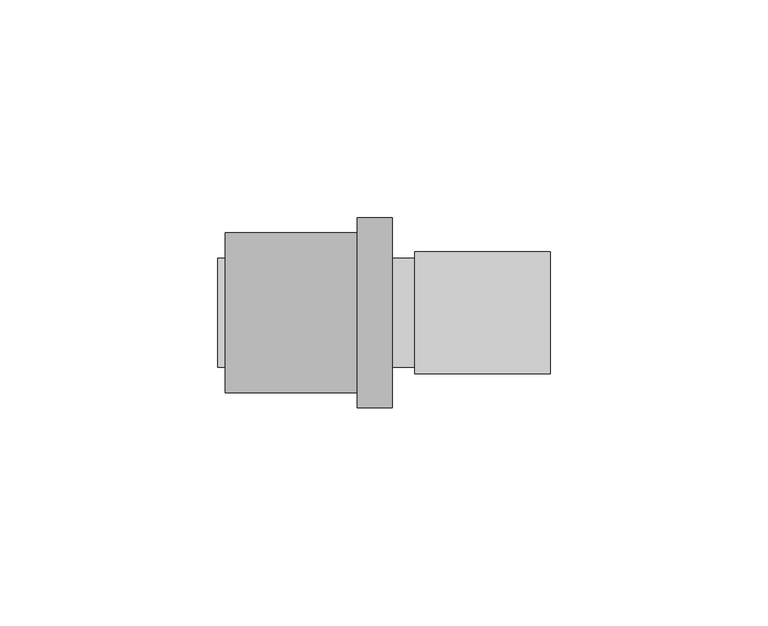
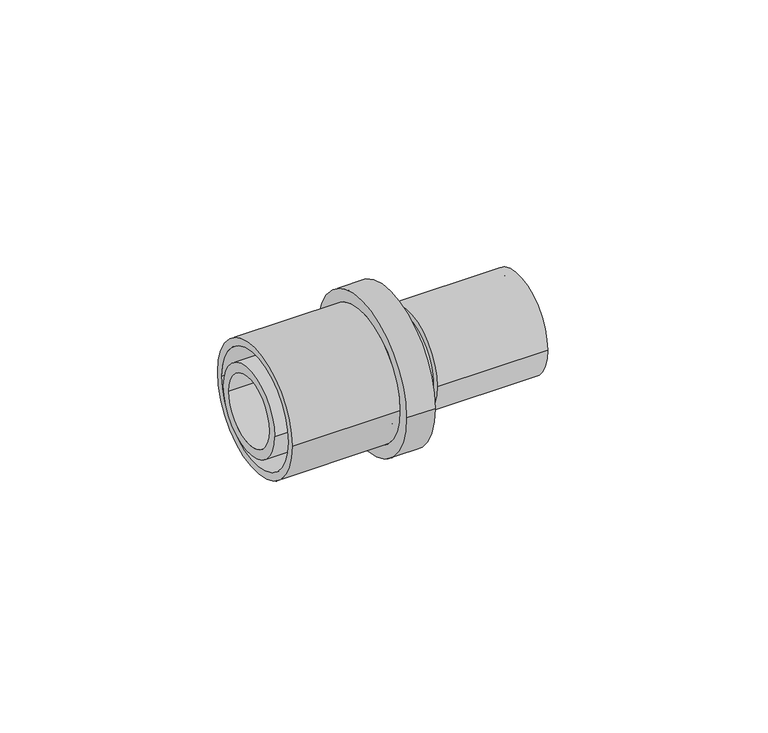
"""IFC4 building model written with IfcOpenShell, lengths in millimetres: pipe fitting geometry, FASTLOC Copper press adapter RX+ : FSL RX+ AT."""

from ifc_helpers import new_model, si_unit, point, frame, origin, origin_2d, place, context, project, spatial, polyline, circle_curve, trimmed, segment, composite_curve, outline, extrude, source, transform, mapped, element, save
from ifc_brep_helpers import plane_surface, cylinder_surface, revolved_surface, advanced_brep


def pipe_fitting_e188583c(model_context):
    return source(origin(), model_context, "Body", "SolidModel", [
        advanced_brep(
        [(-13.1, -21.8, 0.0), (-13.1, 21.8, 0.0), (-5.1, 21.8, 0.0), (-5.1, -21.8, 0.0), (-43.4, -18.35, 0.0), (-43.4, 18.35, 0.0), (-13.1, 18.35, 0.0), (-13.1, -18.35, 0.0), (-5.1, -16.2, 0.0), (-5.1, 16.2, 0.0), (-43.4, 16.2, 0.0), (-43.4, -16.2, 0.0)],
        [
            (0, 1, circle_curve(frame((-13.1, 0.0, 0.0), z_axis=(1.0, 0.0, 0.0), x_axis=(0.0, 1.0, 0.0)), 21.8)),
            (1, 2),
            (2, 3, circle_curve(frame((-5.1, 0.0, 0.0), z_axis=(-1.0, 0.0, 0.0), x_axis=(0.0, 1.0, 0.0)), 21.8)),
            (3, 0),
            (4, 5, circle_curve(frame((-43.4, 0.0, 0.0), z_axis=(1.0, 0.0, 0.0), x_axis=(0.0, 1.0, 0.0)), 18.35)),
            (5, 6),
            (6, 7, circle_curve(frame((-13.1, 0.0, 0.0), z_axis=(-1.0, 0.0, 0.0), x_axis=(0.0, 1.0, 0.0)), 18.35)),
            (7, 4),
            (8, 9, circle_curve(frame((-5.1, 0.0, 0.0), z_axis=(1.0, 0.0, 0.0), x_axis=(0.0, 1.0, 0.0)), 16.2)),
            (9, 10),
            (10, 11, circle_curve(frame((-43.4, 0.0, 0.0), z_axis=(-1.0, 0.0, 0.0), x_axis=(0.0, 1.0, 0.0)), 16.2)),
            (11, 8),
            (1, 0, circle_curve(frame((-13.1, 0.0, 0.0), z_axis=(1.0, 0.0, 0.0), x_axis=(0.0, -1.0, 0.0)), 21.8)),
            (3, 2, circle_curve(frame((-5.1, 0.0, 0.0), z_axis=(-1.0, 0.0, 0.0), x_axis=(0.0, -1.0, 0.0)), 21.8)),
            (6, 7, circle_curve(frame((-13.1, 0.0, 0.0), z_axis=(1.0, 0.0, 0.0), x_axis=(0.0, -1.0, 0.0)), 18.35)),
            (5, 4, circle_curve(frame((-43.4, 0.0, 0.0), z_axis=(1.0, 0.0, 0.0), x_axis=(0.0, -1.0, 0.0)), 18.35)),
            (10, 11, circle_curve(frame((-43.4, 0.0, 0.0), z_axis=(1.0, 0.0, 0.0), x_axis=(0.0, -1.0, 0.0)), 16.2)),
            (9, 8, circle_curve(frame((-5.1, 0.0, 0.0), z_axis=(1.0, 0.0, 0.0), x_axis=(0.0, -1.0, 0.0)), 16.2)),
        ],
        [
            cylinder_surface(frame((-5.1, 0.0, 0.0), z_axis=(-1.0, 0.0, 0.0), x_axis=(0.0, 1.0, 0.0)), 21.8),
            cylinder_surface(frame((-5.1, 0.0, 0.0), z_axis=(-1.0, 0.0, 0.0), x_axis=(0.0, 1.0, 0.0)), 18.35),
            revolved_surface(polyline([(-43.4, 16.2, 0.0), (-5.1, 16.2, 0.0)]), (-5.1, 0.0, 0.0), (-1.0, 0.0, 0.0)),
            cylinder_surface(frame((-5.1, 0.0, 0.0), z_axis=(-1.0, 0.0, 0.0), x_axis=(0.0, -1.0, 0.0)), 21.8),
            plane_surface(frame((-13.1, 0.0, 0.0), z_axis=(-1.0, 0.0, 0.0), x_axis=(0.0, -1.0, 0.0))),
            cylinder_surface(frame((-5.1, 0.0, 0.0), z_axis=(-1.0, 0.0, 0.0), x_axis=(0.0, -1.0, 0.0)), 18.35),
            plane_surface(frame((-43.4, 0.0, 0.0), z_axis=(-1.0, 0.0, 0.0), x_axis=(0.0, -1.0, 0.0))),
            revolved_surface(polyline([(-43.4, -16.2, 0.0), (-5.1, -16.2, 0.0)]), (-5.1, 0.0, 0.0), (-1.0, 0.0, 0.0)),
            plane_surface(frame((-5.1, 0.0, 0.0), z_axis=(1.0, 0.0, 0.0), x_axis=(0.0, -1.0, 0.0))),
        ],
        [
            (0, [[1, 2, 3, 4]]),
            (1, [[5, 6, 7, 8]]),
            (2, [[9, 10, 11, 12]]),
            (3, [[13, -4, 14, -2]]),
            (4, [[-13, -1], [15, -7]]),
            (5, [[16, -8, -15, -6]]),
            (6, [[-16, -5], [17, -11]]),
            (7, [[18, -12, -17, -10]]),
            (8, [[-14, -3], [-18, -9]]),
        ],
    ),
        extrude(outline(composite_curve([segment(trimmed(circle_curve(origin_2d(), 14.0), [point((-14.0, 0.0))], [point((14.0, 0.0))], False, "CARTESIAN"), True, "CONTINUOUS"), segment(trimmed(circle_curve(origin_2d(), 14.0), [point((14.0, 0.0))], [point((-14.0, 0.0))], False, "CARTESIAN"), True, "CONTINUOUS")], self_intersect=False), holes=[composite_curve([segment(trimmed(circle_curve(origin_2d(), 11.75), [point((-11.75, 0.0))], [point((11.75, 0.0))], True, "CARTESIAN"), True, "CONTINUOUS"), segment(trimmed(circle_curve(origin_2d(), 11.75), [point((11.75, 0.0))], [point((-11.75, 0.0))], True, "CARTESIAN"), True, "CONTINUOUS")], self_intersect=False)]), frame((0.0, 0.0, 0.0), z_axis=(1.0, 0.0, 0.0), x_axis=(0.0, 1.0, 0.0)), (0.0, 0.0, 1.0), 31.1),
        advanced_brep(
        [(-13.1, 12.5, 0.0), (-13.1, -12.5, 0.0), (-45.1, -12.5, 0.0), (-45.1, 12.5, 0.0), (-10.1, 14.1, 0.0), (-10.1, -14.1, 0.0), (-13.1, -14.1, 0.0), (-13.1, 14.1, 0.0), (0.0, 12.5, 0.0), (0.0, -12.5, 0.0), (-10.1, -12.5, 0.0), (-10.1, 12.5, 0.0), (-45.1, 9.85, 0.0), (-45.1, -9.85, 0.0), (0.0, -9.85, 0.0), (0.0, 9.85, 0.0)],
        [
            (0, 1, circle_curve(frame((-13.1, 0.0, 0.0), z_axis=(-1.0, 0.0, 0.0), x_axis=(0.0, -1.0, 0.0)), 12.5)),
            (1, 2),
            (2, 3, circle_curve(frame((-45.1, 0.0, 0.0), z_axis=(1.0, 0.0, 0.0), x_axis=(0.0, -1.0, 0.0)), 12.5)),
            (3, 0),
            (4, 5, circle_curve(frame((-10.1, 0.0, 0.0), z_axis=(-1.0, 0.0, 0.0), x_axis=(0.0, -1.0, 0.0)), 14.1)),
            (5, 6),
            (6, 7, circle_curve(frame((-13.1, 0.0, 0.0), z_axis=(1.0, 0.0, 0.0), x_axis=(0.0, -1.0, 0.0)), 14.1)),
            (7, 4),
            (8, 9, circle_curve(frame((0.0, 0.0, 0.0), z_axis=(-1.0, 0.0, 0.0), x_axis=(0.0, -1.0, 0.0)), 12.5)),
            (9, 10),
            (10, 11, circle_curve(frame((-10.1, 0.0, 0.0), z_axis=(1.0, 0.0, 0.0), x_axis=(0.0, -1.0, 0.0)), 12.5)),
            (11, 8),
            (12, 13, circle_curve(frame((-45.1, 0.0, 0.0), z_axis=(-1.0, 0.0, 0.0), x_axis=(0.0, -1.0, 0.0)), 9.85)),
            (13, 14),
            (14, 15, circle_curve(frame((0.0, 0.0, 0.0), z_axis=(1.0, 0.0, 0.0), x_axis=(0.0, -1.0, 0.0)), 9.85)),
            (15, 12),
            (2, 3, circle_curve(frame((-45.1, 0.0, 0.0), z_axis=(-1.0, 0.0, 0.0), x_axis=(0.0, 1.0, 0.0)), 12.5)),
            (12, 13, circle_curve(frame((-45.1, 0.0, 0.0), z_axis=(1.0, 0.0, 0.0), x_axis=(0.0, 1.0, 0.0)), 9.85)),
            (1, 0, circle_curve(frame((-13.1, 0.0, 0.0), z_axis=(-1.0, 0.0, 0.0), x_axis=(0.0, 1.0, 0.0)), 12.5)),
            (6, 7, circle_curve(frame((-13.1, 0.0, 0.0), z_axis=(-1.0, 0.0, 0.0), x_axis=(0.0, 1.0, 0.0)), 14.1)),
            (5, 4, circle_curve(frame((-10.1, 0.0, 0.0), z_axis=(-1.0, 0.0, 0.0), x_axis=(0.0, 1.0, 0.0)), 14.1)),
            (10, 11, circle_curve(frame((-10.1, 0.0, 0.0), z_axis=(-1.0, 0.0, 0.0), x_axis=(0.0, 1.0, 0.0)), 12.5)),
            (9, 8, circle_curve(frame((0.0, 0.0, 0.0), z_axis=(-1.0, 0.0, 0.0), x_axis=(0.0, 1.0, 0.0)), 12.5)),
            (14, 15, circle_curve(frame((0.0, 0.0, 0.0), z_axis=(-1.0, 0.0, 0.0), x_axis=(0.0, 1.0, 0.0)), 9.85)),
        ],
        [
            cylinder_surface(frame((0.0, 0.0, 0.0), z_axis=(1.0, 0.0, 0.0), x_axis=(0.0, -1.0, 0.0)), 12.5),
            cylinder_surface(frame((0.0, 0.0, 0.0), z_axis=(1.0, 0.0, 0.0), x_axis=(0.0, -1.0, 0.0)), 14.1),
            revolved_surface(polyline([(0.0, -9.85, 0.0), (-45.1, -9.85, 0.0)]), (0.0, 0.0, 0.0), (1.0, 0.0, 0.0)),
            plane_surface(frame((-45.1, 0.0, 0.0), z_axis=(-1.0, 0.0, 0.0), x_axis=(0.0, 1.0, 0.0))),
            cylinder_surface(frame((0.0, 0.0, 0.0), z_axis=(1.0, 0.0, 0.0), x_axis=(0.0, 1.0, 0.0)), 12.5),
            plane_surface(frame((-13.1, 0.0, 0.0), z_axis=(-1.0, 0.0, 0.0), x_axis=(0.0, 1.0, 0.0))),
            cylinder_surface(frame((0.0, 0.0, 0.0), z_axis=(1.0, 0.0, 0.0), x_axis=(0.0, 1.0, 0.0)), 14.1),
            plane_surface(frame((-10.1, 0.0, 0.0), z_axis=(1.0, 0.0, 0.0), x_axis=(0.0, 1.0, 0.0))),
            plane_surface(frame((0.0, 0.0, 0.0), z_axis=(1.0, 0.0, 0.0), x_axis=(0.0, 1.0, 0.0))),
            revolved_surface(polyline([(0.0, 9.85, 0.0), (-45.1, 9.85, 0.0)]), (0.0, 0.0, 0.0), (1.0, 0.0, 0.0)),
        ],
        [
            (0, [[1, 2, 3, 4]]),
            (1, [[5, 6, 7, 8]]),
            (0, [[9, 10, 11, 12]]),
            (2, [[13, 14, 15, 16]]),
            (3, [[17, -3], [18, -13]]),
            (4, [[19, -4, -17, -2]]),
            (5, [[20, -7], [-19, -1]]),
            (6, [[21, -8, -20, -6]]),
            (7, [[-21, -5], [22, -11]]),
            (4, [[23, -12, -22, -10]]),
            (8, [[-23, -9], [24, -15]]),
            (9, [[-18, -16, -24, -14]]),
        ],
    ),
    ])


if __name__ == "__main__":
    model = new_model("IFC4")
    model_context = context("Model", 3, world=origin())
    ifc_project = project(units=[si_unit("LENGTHUNIT", "METRE", prefix="MILLI")], contexts=[model_context])
    site = spatial("IfcSite", under=ifc_project)
    building = spatial("IfcBuilding", under=site)
    placement = place(None, origin())
    pipe_fitting_shape = pipe_fitting_e188583c(model_context)
    element("IfcPipeFitting", 1, ObjectType="FASTLOC Copper press adapter RX+ : FSL RX+ AT", at=placement, inside=building, context=model_context, shape_type="MappedRepresentation", body=[
        mapped(pipe_fitting_shape, transform((0.0, 0.0, 0.0), x_axis=(1.0, 0.0, 0.0), y_axis=(0.0, 1.0, 0.0), z_axis=(0.0, 0.0, 1.0))),
    ])
    save(model, "model.ifc")
